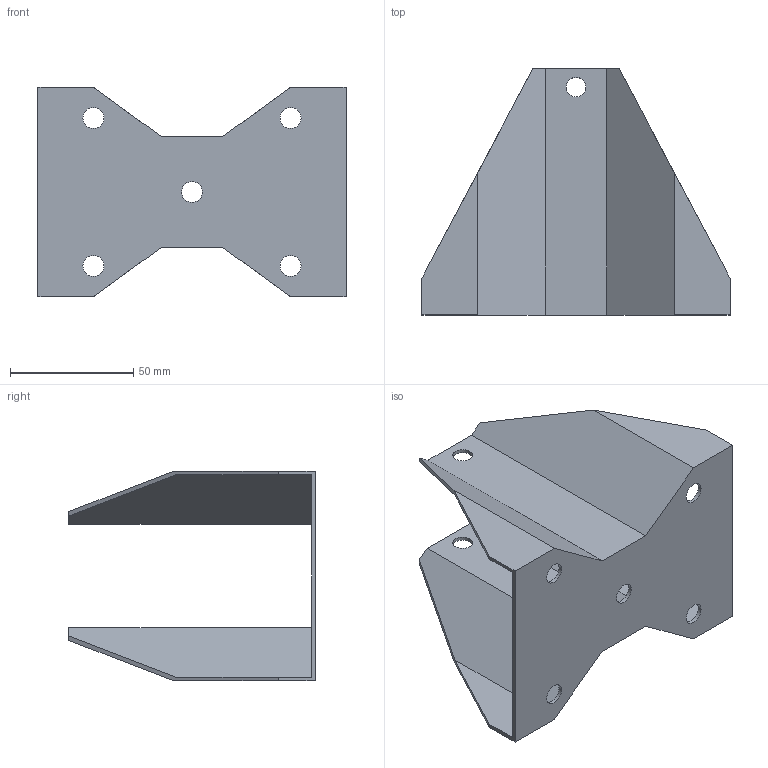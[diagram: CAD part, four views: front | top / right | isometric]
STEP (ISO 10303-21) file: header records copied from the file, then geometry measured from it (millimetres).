
FILE_DESCRIPTION((''),'2;1');
FILE_NAME('RUF125N_2','2002-12-27T',('Lipro doo'),('Lipro d.o.o.'),'PRO/ENGINEER BY PARAMETRIC TECHNOLOGY CORPORATION, 2001150','PRO/ENGINEER BY PARAMETRIC TECHNOLOGY CORPORATION, 2001150','');
FILE_SCHEMA(('CONFIG_CONTROL_DESIGN'));
Length unit declared in the file: millimetre
Products named in the file (1): RUF125N_2
Bounding box: 125 x 100 x 85 mm (x, y, z)
Volume: 40824 mm3; surface area: 55801.4 mm2
Topology: 1 solids, 1 shells, 44 faces, 126 edges, 84 vertices
Faces by surface type: plane 30, cylinder 14
Entity records: 1504 total; most frequent: CARTESIAN_POINT 254, ORIENTED_EDGE 252, DIRECTION 242, EDGE_CURVE 126, VECTOR 98, LINE 98, VERTEX_POINT 84, AXIS2_PLACEMENT_3D 72
